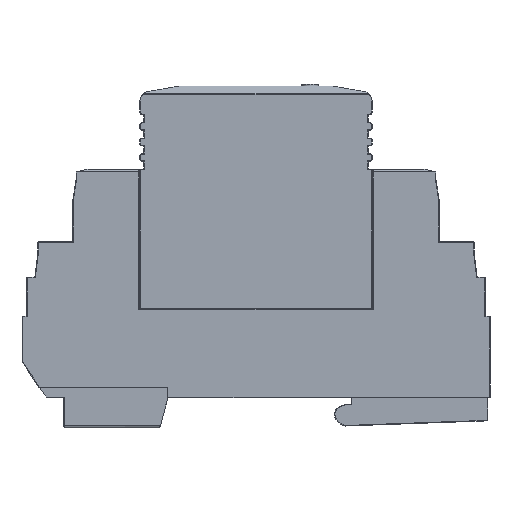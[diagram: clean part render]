
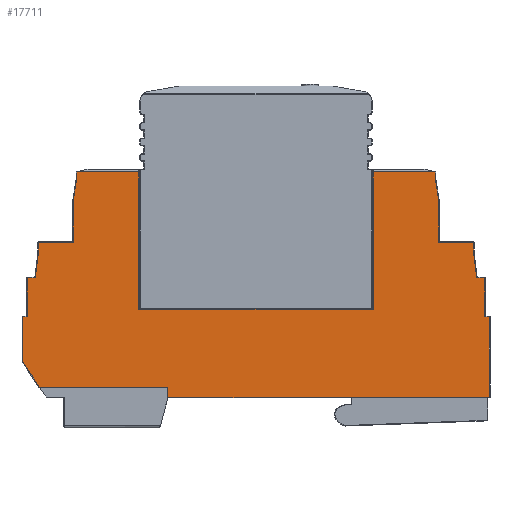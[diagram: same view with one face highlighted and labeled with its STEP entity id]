
A CAD part, front view. The second image highlights one B-rep face of the part: STEP entity #17711.
In plain terms, the highlighted planar face has unit normal (0, -1, 0).
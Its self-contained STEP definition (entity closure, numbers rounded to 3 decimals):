
#296=PLANE('',#18959);
#1065=FACE_OUTER_BOUND('',#2093,.T.);
#2093=EDGE_LOOP('',(#12909,#12910,#12911,#12912,#12913,#12914,#12915,#12916,
#12917,#12918,#12919,#12920,#12921,#12922,#12923,#12924,#12925,#12926,#12927,
#12928,#12929,#12930,#12931,#12932,#12933,#12934,#12935,#12936,#12937));
#4021=LINE('',#26698,#6027);
#4024=LINE('',#26713,#6030);
#4027=LINE('',#26730,#6033);
#4030=LINE('',#26740,#6036);
#4043=LINE('',#26782,#6049);
#4081=LINE('',#26860,#6087);
#4082=LINE('',#26862,#6088);
#4083=LINE('',#26864,#6089);
#4084=LINE('',#26866,#6090);
#4085=LINE('',#26868,#6091);
#4086=LINE('',#26870,#6092);
#4087=LINE('',#26872,#6093);
#4088=LINE('',#26874,#6094);
#4089=LINE('',#26876,#6095);
#4090=LINE('',#26878,#6096);
#4091=LINE('',#26880,#6097);
#4092=LINE('',#26882,#6098);
#4093=LINE('',#26884,#6099);
#4094=LINE('',#26886,#6100);
#4095=LINE('',#26888,#6101);
#4096=LINE('',#26890,#6102);
#4097=LINE('',#26892,#6103);
#4098=LINE('',#26894,#6104);
#4099=LINE('',#26896,#6105);
#4100=LINE('',#26898,#6106);
#4101=LINE('',#26900,#6107);
#4102=LINE('',#26902,#6108);
#4103=LINE('',#26904,#6109);
#4104=LINE('',#26905,#6110);
#6027=VECTOR('',#21201,10.);
#6030=VECTOR('',#21216,10.);
#6033=VECTOR('',#21235,10.);
#6036=VECTOR('',#21244,10.);
#6049=VECTOR('',#21291,10.);
#6087=VECTOR('',#21361,10.);
#6088=VECTOR('',#21362,10.);
#6089=VECTOR('',#21363,10.);
#6090=VECTOR('',#21364,10.);
#6091=VECTOR('',#21365,10.);
#6092=VECTOR('',#21366,10.);
#6093=VECTOR('',#21367,10.);
#6094=VECTOR('',#21368,10.);
#6095=VECTOR('',#21369,10.);
#6096=VECTOR('',#21370,10.);
#6097=VECTOR('',#21371,10.);
#6098=VECTOR('',#21372,10.);
#6099=VECTOR('',#21373,10.);
#6100=VECTOR('',#21374,10.);
#6101=VECTOR('',#21375,10.);
#6102=VECTOR('',#21376,10.);
#6103=VECTOR('',#21377,10.);
#6104=VECTOR('',#21378,10.);
#6105=VECTOR('',#21379,10.);
#6106=VECTOR('',#21380,10.);
#6107=VECTOR('',#21381,10.);
#6108=VECTOR('',#21382,10.);
#6109=VECTOR('',#21383,10.);
#6110=VECTOR('',#21384,10.);
#8008=VERTEX_POINT('',#26691);
#8010=VERTEX_POINT('',#26696);
#8016=VERTEX_POINT('',#26712);
#8021=VERTEX_POINT('',#26725);
#8022=VERTEX_POINT('',#26729);
#8026=VERTEX_POINT('',#26739);
#8062=VERTEX_POINT('',#26859);
#8063=VERTEX_POINT('',#26861);
#8064=VERTEX_POINT('',#26863);
#8065=VERTEX_POINT('',#26865);
#8066=VERTEX_POINT('',#26867);
#8067=VERTEX_POINT('',#26869);
#8068=VERTEX_POINT('',#26871);
#8069=VERTEX_POINT('',#26873);
#8070=VERTEX_POINT('',#26875);
#8071=VERTEX_POINT('',#26877);
#8072=VERTEX_POINT('',#26879);
#8073=VERTEX_POINT('',#26881);
#8074=VERTEX_POINT('',#26883);
#8075=VERTEX_POINT('',#26885);
#8076=VERTEX_POINT('',#26887);
#8077=VERTEX_POINT('',#26889);
#8078=VERTEX_POINT('',#26891);
#8079=VERTEX_POINT('',#26893);
#8080=VERTEX_POINT('',#26895);
#8081=VERTEX_POINT('',#26897);
#8082=VERTEX_POINT('',#26899);
#8083=VERTEX_POINT('',#26901);
#8084=VERTEX_POINT('',#26903);
#9796=EDGE_CURVE('',#8010,#8008,#4021,.T.);
#9803=EDGE_CURVE('',#8008,#8016,#4024,.T.);
#9811=EDGE_CURVE('',#8022,#8021,#4027,.T.);
#9816=EDGE_CURVE('',#8021,#8026,#4030,.T.);
#9838=EDGE_CURVE('',#8016,#8022,#4043,.T.);
#9880=EDGE_CURVE('',#8062,#8010,#4081,.T.);
#9881=EDGE_CURVE('',#8063,#8062,#4082,.T.);
#9882=EDGE_CURVE('',#8064,#8063,#4083,.T.);
#9883=EDGE_CURVE('',#8065,#8064,#4084,.T.);
#9884=EDGE_CURVE('',#8066,#8065,#4085,.T.);
#9885=EDGE_CURVE('',#8067,#8066,#4086,.T.);
#9886=EDGE_CURVE('',#8068,#8067,#4087,.T.);
#9887=EDGE_CURVE('',#8069,#8068,#4088,.T.);
#9888=EDGE_CURVE('',#8070,#8069,#4089,.T.);
#9889=EDGE_CURVE('',#8071,#8070,#4090,.T.);
#9890=EDGE_CURVE('',#8072,#8071,#4091,.T.);
#9891=EDGE_CURVE('',#8072,#8073,#4092,.T.);
#9892=EDGE_CURVE('',#8073,#8074,#4093,.T.);
#9893=EDGE_CURVE('',#8075,#8074,#4094,.T.);
#9894=EDGE_CURVE('',#8076,#8075,#4095,.T.);
#9895=EDGE_CURVE('',#8077,#8076,#4096,.T.);
#9896=EDGE_CURVE('',#8078,#8077,#4097,.T.);
#9897=EDGE_CURVE('',#8079,#8078,#4098,.T.);
#9898=EDGE_CURVE('',#8080,#8079,#4099,.T.);
#9899=EDGE_CURVE('',#8081,#8080,#4100,.T.);
#9900=EDGE_CURVE('',#8082,#8081,#4101,.T.);
#9901=EDGE_CURVE('',#8083,#8082,#4102,.T.);
#9902=EDGE_CURVE('',#8084,#8083,#4103,.T.);
#9903=EDGE_CURVE('',#8026,#8084,#4104,.T.);
#12909=ORIENTED_EDGE('',*,*,#9816,.F.);
#12910=ORIENTED_EDGE('',*,*,#9811,.F.);
#12911=ORIENTED_EDGE('',*,*,#9838,.F.);
#12912=ORIENTED_EDGE('',*,*,#9803,.F.);
#12913=ORIENTED_EDGE('',*,*,#9796,.F.);
#12914=ORIENTED_EDGE('',*,*,#9880,.F.);
#12915=ORIENTED_EDGE('',*,*,#9881,.F.);
#12916=ORIENTED_EDGE('',*,*,#9882,.F.);
#12917=ORIENTED_EDGE('',*,*,#9883,.F.);
#12918=ORIENTED_EDGE('',*,*,#9884,.F.);
#12919=ORIENTED_EDGE('',*,*,#9885,.F.);
#12920=ORIENTED_EDGE('',*,*,#9886,.F.);
#12921=ORIENTED_EDGE('',*,*,#9887,.F.);
#12922=ORIENTED_EDGE('',*,*,#9888,.F.);
#12923=ORIENTED_EDGE('',*,*,#9889,.F.);
#12924=ORIENTED_EDGE('',*,*,#9890,.F.);
#12925=ORIENTED_EDGE('',*,*,#9891,.T.);
#12926=ORIENTED_EDGE('',*,*,#9892,.T.);
#12927=ORIENTED_EDGE('',*,*,#9893,.F.);
#12928=ORIENTED_EDGE('',*,*,#9894,.F.);
#12929=ORIENTED_EDGE('',*,*,#9895,.F.);
#12930=ORIENTED_EDGE('',*,*,#9896,.F.);
#12931=ORIENTED_EDGE('',*,*,#9897,.F.);
#12932=ORIENTED_EDGE('',*,*,#9898,.F.);
#12933=ORIENTED_EDGE('',*,*,#9899,.F.);
#12934=ORIENTED_EDGE('',*,*,#9900,.F.);
#12935=ORIENTED_EDGE('',*,*,#9901,.F.);
#12936=ORIENTED_EDGE('',*,*,#9902,.F.);
#12937=ORIENTED_EDGE('',*,*,#9903,.F.);
#17711=ADVANCED_FACE('',(#1065),#296,.T.);
#18959=AXIS2_PLACEMENT_3D('',#26858,#21359,#21360);
#21201=DIRECTION('',(1.,0.,0.));
#21216=DIRECTION('',(0.,0.,-1.));
#21235=DIRECTION('',(0.,0.,1.));
#21244=DIRECTION('',(1.,0.,0.));
#21291=DIRECTION('',(1.,0.,0.));
#21359=DIRECTION('center_axis',(0.,-1.,0.));
#21360=DIRECTION('ref_axis',(1.,0.,0.));
#21361=DIRECTION('',(0.,0.,1.));
#21362=DIRECTION('',(0.154,0.,0.988));
#21363=DIRECTION('',(0.,0.,1.));
#21364=DIRECTION('',(1.,0.,0.));
#21365=DIRECTION('',(0.,0.,1.));
#21366=DIRECTION('',(0.124,0.,0.992));
#21367=DIRECTION('',(1.,0.,0.));
#21368=DIRECTION('',(0.,0.,1.));
#21369=DIRECTION('',(1.,0.,0.));
#21370=DIRECTION('',(0.,0.,1.));
#21371=DIRECTION('',(-0.553,0.,0.833));
#21372=DIRECTION('',(1.,0.,0.));
#21373=DIRECTION('',(0.,0.,-1.));
#21374=DIRECTION('',(-1.,0.,0.));
#21375=DIRECTION('',(0.,0.,-1.));
#21376=DIRECTION('',(1.,0.,0.));
#21377=DIRECTION('',(0.,0.,-1.));
#21378=DIRECTION('',(1.,0.,0.));
#21379=DIRECTION('',(0.124,0.,-0.992));
#21380=DIRECTION('',(0.,0.,-1.));
#21381=DIRECTION('',(1.,0.,0.));
#21382=DIRECTION('',(0.,0.,-1.));
#21383=DIRECTION('',(0.154,0.,-0.988));
#21384=DIRECTION('',(0.,0.,-1.));
#26691=CARTESIAN_POINT('',(-22.725,-8.75,40.609));
#26696=CARTESIAN_POINT('',(-34.688,-8.75,40.609));
#26698=CARTESIAN_POINT('',(-33.931,-8.75,40.609));
#26712=CARTESIAN_POINT('',(-22.725,-8.75,14.15));
#26713=CARTESIAN_POINT('',(-22.725,-8.75,31.025));
#26725=CARTESIAN_POINT('',(22.475,-8.75,40.609));
#26729=CARTESIAN_POINT('',(22.475,-8.75,14.15));
#26730=CARTESIAN_POINT('',(22.475,-8.75,18.575));
#26739=CARTESIAN_POINT('',(34.438,-8.75,40.609));
#26740=CARTESIAN_POINT('',(-33.931,-8.75,40.609));
#26782=CARTESIAN_POINT('',(-22.663,-8.75,14.15));
#26858=CARTESIAN_POINT('Origin',(-45.2,-8.75,20.9));
#26859=CARTESIAN_POINT('',(-34.688,-8.75,39.143));
#26860=CARTESIAN_POINT('',(-34.688,-8.75,31.025));
#26861=CARTESIAN_POINT('',(-35.375,-8.75,34.742));
#26862=CARTESIAN_POINT('',(-36.204,-8.75,29.433));
#26863=CARTESIAN_POINT('',(-35.375,-8.75,27.05));
#26864=CARTESIAN_POINT('',(-35.375,-8.75,27.825));
#26865=CARTESIAN_POINT('',(-42.025,-8.75,27.05));
#26866=CARTESIAN_POINT('',(-22.663,-8.75,27.05));
#26867=CARTESIAN_POINT('',(-42.025,-8.75,25.144));
#26868=CARTESIAN_POINT('',(-42.025,-8.75,24.525));
#26869=CARTESIAN_POINT('',(-42.637,-8.75,20.25));
#26870=CARTESIAN_POINT('',(-42.311,-8.75,22.856));
#26871=CARTESIAN_POINT('',(-44.175,-8.75,20.25));
#26872=CARTESIAN_POINT('',(-43.963,-8.75,20.25));
#26873=CARTESIAN_POINT('',(-44.175,-8.75,12.75));
#26874=CARTESIAN_POINT('',(-44.175,-8.75,20.625));
#26875=CARTESIAN_POINT('',(-45.1,-8.75,12.75));
#26876=CARTESIAN_POINT('',(-44.738,-8.75,12.75));
#26877=CARTESIAN_POINT('',(-45.1,-8.75,4.08));
#26878=CARTESIAN_POINT('',(-45.1,-8.75,20.9));
#26879=CARTESIAN_POINT('',(-41.83,-8.75,-0.85));
#26880=CARTESIAN_POINT('',(-48.185,-8.75,8.731));
#26881=CARTESIAN_POINT('',(-17.1,-8.75,-0.85));
#26882=CARTESIAN_POINT('',(-45.2,-8.75,-0.85));
#26883=CARTESIAN_POINT('',(-17.1,-8.75,-2.85));
#26884=CARTESIAN_POINT('',(-17.1,-8.75,10.025));
#26885=CARTESIAN_POINT('',(44.85,-8.75,-2.85));
#26886=CARTESIAN_POINT('',(44.95,-8.75,-2.85));
#26887=CARTESIAN_POINT('',(44.85,-8.75,12.75));
#26888=CARTESIAN_POINT('',(44.85,-8.75,20.9));
#26889=CARTESIAN_POINT('',(43.925,-8.75,12.75));
#26890=CARTESIAN_POINT('',(-0.125,-8.75,12.75));
#26891=CARTESIAN_POINT('',(43.925,-8.75,20.25));
#26892=CARTESIAN_POINT('',(43.925,-8.75,16.875));
#26893=CARTESIAN_POINT('',(42.387,-8.75,20.25));
#26894=CARTESIAN_POINT('',(-0.587,-8.75,20.25));
#26895=CARTESIAN_POINT('',(41.775,-8.75,25.144));
#26896=CARTESIAN_POINT('',(41.668,-8.75,26.004));
#26897=CARTESIAN_POINT('',(41.775,-8.75,27.05));
#26898=CARTESIAN_POINT('',(41.775,-8.75,23.025));
#26899=CARTESIAN_POINT('',(35.125,-8.75,27.05));
#26900=CARTESIAN_POINT('',(-22.663,-8.75,27.05));
#26901=CARTESIAN_POINT('',(35.125,-8.75,34.742));
#26902=CARTESIAN_POINT('',(35.125,-8.75,24.525));
#26903=CARTESIAN_POINT('',(34.438,-8.75,39.142));
#26904=CARTESIAN_POINT('',(35.224,-8.75,34.108));
#26905=CARTESIAN_POINT('',(34.438,-8.75,30.025));
